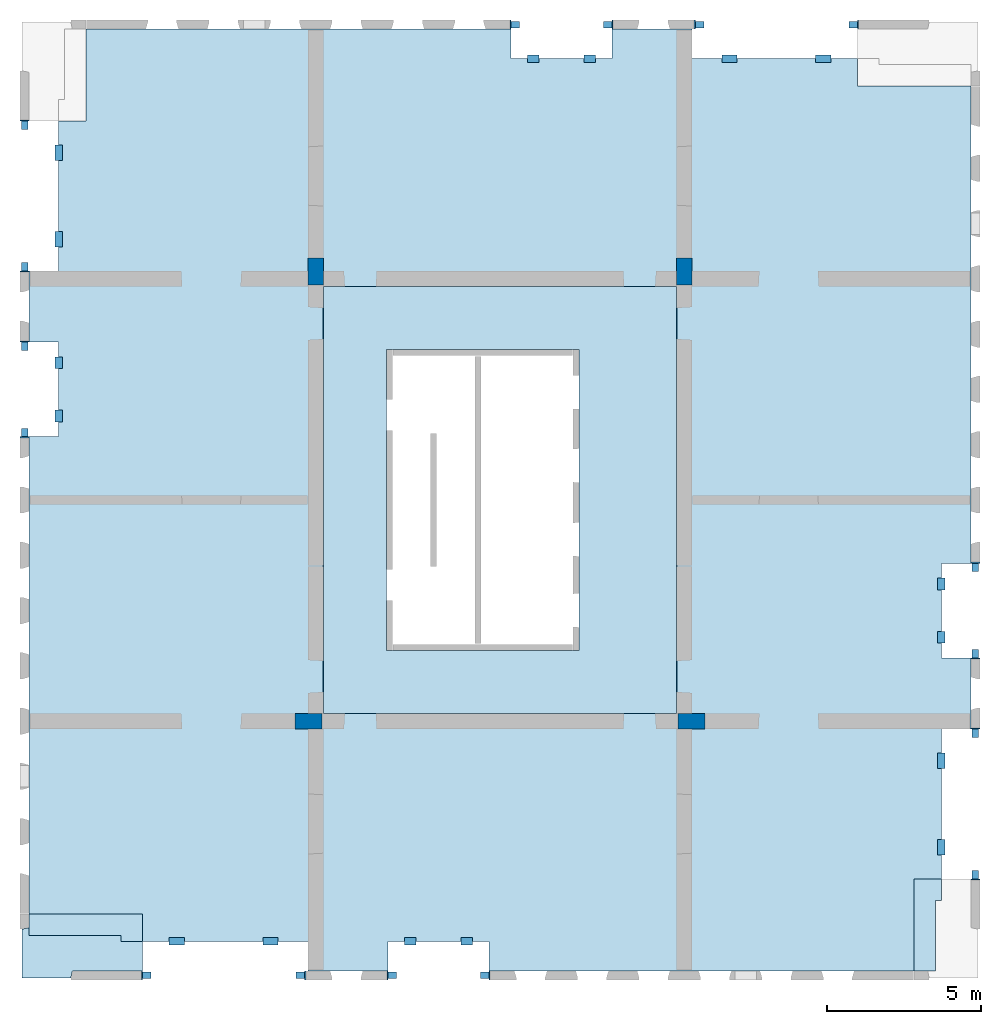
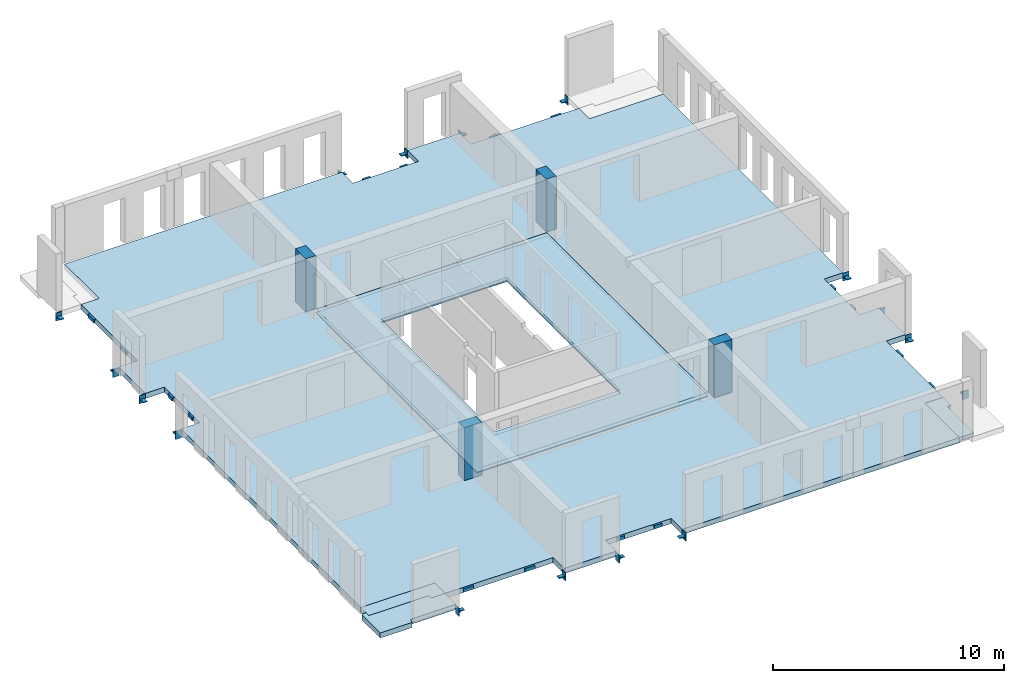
# One storey, part 1 of 4: 32 beams, 6 slabs, 4 columns, 3 openings.
"""IFC2X3 building model written with IfcOpenShell, lengths in millimetres."""

from ifc_helpers import new_model, entity, si_unit, converted_unit, derived_unit, direction, frame, frame_2d, origin, origin_2d_with_axis, place, context, subcontext, project, spatial, polyline, rectangle, outline, extrude, source, transform, mapped, material, layer, layer_set, layer_usage, type_object, type_shapes, element, save


model = new_model("IFC2X3")

# Units and contexts
model_context = context("Model", 3, precision=0.01, world=origin(), true_north=direction((6.12303176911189e-17, 1.0)))
body_context = subcontext(model_context, "Body", "Model", "MODEL_VIEW")
ifc_project = project(units=[si_unit("LENGTHUNIT", "METRE", prefix="MILLI"), si_unit("AREAUNIT", "SQUARE_METRE"), si_unit("VOLUMEUNIT", "CUBIC_METRE"), converted_unit("PLANEANGLEUNIT", "DEGREE", entity("IfcRatioMeasure", 0.0174532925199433), si_unit("PLANEANGLEUNIT", "RADIAN"), dimensions=[0, 0, 0, 0, 0, 0, 0]), si_unit("MASSUNIT", "GRAM", prefix="KILO"), derived_unit("MASSDENSITYUNIT", [(si_unit("MASSUNIT", "GRAM", prefix="KILO"), 1), (si_unit("LENGTHUNIT", "METRE"), -3)]), si_unit("TIMEUNIT", "SECOND"), si_unit("FREQUENCYUNIT", "HERTZ"), si_unit("THERMODYNAMICTEMPERATUREUNIT", "DEGREE_CELSIUS"), derived_unit("THERMALTRANSMITTANCEUNIT", [(si_unit("MASSUNIT", "GRAM", prefix="KILO"), 1), (si_unit("THERMODYNAMICTEMPERATUREUNIT", "KELVIN"), -1), (si_unit("TIMEUNIT", "SECOND"), -3)]), derived_unit("VOLUMETRICFLOWRATEUNIT", [(si_unit("LENGTHUNIT", "METRE"), 3), (si_unit("TIMEUNIT", "SECOND"), -1)]), si_unit("ELECTRICCURRENTUNIT", "AMPERE"), si_unit("ELECTRICVOLTAGEUNIT", "VOLT"), si_unit("POWERUNIT", "WATT"), si_unit("FORCEUNIT", "NEWTON", prefix="KILO"), si_unit("ILLUMINANCEUNIT", "LUX"), si_unit("LUMINOUSFLUXUNIT", "LUMEN"), si_unit("LUMINOUSINTENSITYUNIT", "CANDELA"), derived_unit("USERDEFINED", [(si_unit("MASSUNIT", "GRAM", prefix="KILO"), -1), (si_unit("LENGTHUNIT", "METRE"), -2), (si_unit("TIMEUNIT", "SECOND"), 3), (si_unit("LUMINOUSFLUXUNIT", "LUMEN"), 1)]), derived_unit("LINEARVELOCITYUNIT", [(si_unit("LENGTHUNIT", "METRE"), 1), (si_unit("TIMEUNIT", "SECOND"), -1)]), si_unit("PRESSUREUNIT", "PASCAL"), derived_unit("USERDEFINED", [(si_unit("LENGTHUNIT", "METRE"), -2), (si_unit("MASSUNIT", "GRAM", prefix="KILO"), 1), (si_unit("TIMEUNIT", "SECOND"), -2)])], contexts=[model_context])

# Site, building, storey
site_placement = place(None, origin())
site = spatial("IfcSite", under=ifc_project, at=site_placement, Name="Default", CompositionType="ELEMENT")
building_placement = place(site_placement, origin())
building = spatial("IfcBuilding", under=site, at=building_placement, Name="niet gebruiken", CompositionType="ELEMENT")
storey_placement = place(building_placement, frame((0.0, 0.0, 42480.0)))
storey = spatial("IfcBuildingStorey", under=building, at=storey_placement, Name="13 dertiende verdieping", CompositionType="ELEMENT", Elevation=42480.0)

# Columns
ifc_material_1 = material(Name="NLRS_f2_beton ihwg")
column_type_1 = type_object("IfcColumnType", Name="500x880", PredefinedType="COLUMN", material=ifc_material_1)
shared_shape_1 = source(origin(), body_context, "Body", "SweptSolid", [
    extrude(rectangle(XDim=879.999999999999, YDim=500.000000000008, at=origin_2d_with_axis()), frame((135750.003540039, 24940.0, 42390.0), z_axis=(0.0, 0.0, 1.0), x_axis=(0.0, -1.0, 0.0)), (0.0, 0.0, 1.0), 2790.0),
])
type_shapes(column_type_1, [shared_shape_1])
column_1_placement = place(storey_placement, frame((0.0, 0.0, -42480.0)))
element("IfcColumn", 1, at=column_1_placement, inside=storey, type_object=column_type_1, material=ifc_material_1, Name="NLRS_28.11_SCO_TLB_beton kolom ihwg_gen:500x880", ObjectType="500x880", context=body_context, shape_type="MappedRepresentation", body=[
    mapped(shared_shape_1, transform((0.0, 0.0, 0.0), scale=1.0)),
])
column_type_2 = type_object("IfcColumnType", Name="500x880", PredefinedType="COLUMN", material=ifc_material_1)
shared_shape_2 = source(origin(), body_context, "Body", "SweptSolid", [
    extrude(rectangle(XDim=879.999999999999, YDim=500.000000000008, at=origin_2d_with_axis()), frame((147750.0, 24940.0, 42390.0), z_axis=(0.0, 0.0, 1.0), x_axis=(0.0, -1.0, 0.0)), (0.0, 0.0, 1.0), 2790.0),
])
type_shapes(column_type_2, [shared_shape_2])
column_2_placement = place(storey_placement, frame((0.0, 0.0, -42480.0)))
element("IfcColumn", 2, at=column_2_placement, inside=storey, type_object=column_type_2, material=ifc_material_1, Name="NLRS_28.11_SCO_TLB_beton kolom ihwg_gen:500x880", ObjectType="500x880", context=body_context, shape_type="MappedRepresentation", body=[
    mapped(shared_shape_2, transform((0.0, 0.0, 0.0), scale=1.0)),
])
column_type_3 = type_object("IfcColumnType", Name="500x880", PredefinedType="COLUMN", material=ifc_material_1)
shared_shape_3 = source(origin(), body_context, "Body", "SweptSolid", [
    extrude(rectangle(XDim=500.000000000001, YDim=880.000000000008, at=origin_2d_with_axis()), frame((135510.003540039, 10300.0115507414, 42390.0), z_axis=(0.0, 0.0, 1.0), x_axis=(0.0, -1.0, 0.0)), (0.0, 0.0, 1.0), 2790.0),
])
type_shapes(column_type_3, [shared_shape_3])
column_3_placement = place(storey_placement, frame((0.0, 0.0, -42480.0)))
element("IfcColumn", 3, at=column_3_placement, inside=storey, type_object=column_type_3, material=ifc_material_1, Name="NLRS_28.11_SCO_TLB_beton kolom ihwg_gen:500x880", ObjectType="500x880", context=body_context, shape_type="MappedRepresentation", body=[
    mapped(shared_shape_3, transform((0.0, 0.0, 0.0), scale=1.0)),
])
column_type_4 = type_object("IfcColumnType", Name="500x880", PredefinedType="COLUMN", material=ifc_material_1)
shared_shape_4 = source(origin(), body_context, "Body", "SweptSolid", [
    extrude(rectangle(XDim=500.000000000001, YDim=880.000000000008, at=origin_2d_with_axis()), frame((147990.0, 10300.0, 42390.0), z_axis=(0.0, 0.0, 1.0), x_axis=(0.0, -1.0, 0.0)), (0.0, 0.0, 1.0), 2790.0),
])
type_shapes(column_type_4, [shared_shape_4])
column_4_placement = place(storey_placement, frame((0.0, 0.0, -42480.0)))
element("IfcColumn", 4, at=column_4_placement, inside=storey, type_object=column_type_4, material=ifc_material_1, Name="NLRS_28.11_SCO_TLB_beton kolom ihwg_gen:500x880", ObjectType="500x880", context=body_context, shape_type="MappedRepresentation", body=[
    mapped(shared_shape_4, transform((0.0, 0.0, 0.0), scale=1.0)),
])

# Beams
ifc_material_2 = material(Name="NLRS_h2_staal")
beam_type_1 = type_object("IfcBeamType", Name="NLRS_28.11_SF_WPB_stalen schoen 4_gen", PredefinedType="BEAM", material=ifc_material_2)
shared_shape_5 = source(origin(), body_context, "Body", "SweptSolid", [
    extrude(outline(polyline([(-69.4999999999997, -23.0), (8.49999999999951, -23.0), (30.5, -1.0), (30.5000000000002, 47.0), (-69.4999999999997, -23.0)])), frame((-105.0, -109.499999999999, -58.0), z_axis=(1.0, 0.0, 0.0), x_axis=(0.0, -1.0, 0.0)), (0.0, 0.0, 1.0), 35.0),
    extrude(outline(polyline([(-69.4999999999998, -23.0), (8.49999999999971, -23.0), (30.5, -1.0), (30.5000000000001, 47.0), (-69.4999999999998, -23.0)])), frame((70.0, -109.499999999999, -58.0), z_axis=(1.0, 0.0, 0.0), x_axis=(0.0, -1.0, 0.0)), (0.0, 0.0, 1.0), 35.0),
    extrude(rectangle(XDim=300.0, YDim=34.9999999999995, at=origin_2d_with_axis()), frame((0.0, -157.5, -230.0), z_axis=(0.0, 0.0, 1.0), x_axis=(-1.0, 0.0, 0.0)), (0.0, 0.0, 1.0), 420.0),
    extrude(rectangle(XDim=210.000000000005, YDim=274.999999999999, at=origin_2d_with_axis()), frame((0.0, -2.4999999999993, -35.0), z_axis=(0.0, 0.0, 1.0), x_axis=(-1.0, 0.0, 0.0)), (0.0, 0.0, 1.0), 35.0),
])
type_shapes(beam_type_1, [shared_shape_5])
beam_1_placement = place(storey_placement, frame((157230.0, 12500.0, -310.0)))
element("IfcBeam", 5, at=beam_1_placement, inside=storey, type_object=beam_type_1, material=ifc_material_2, Name="NLRS_28.11_SF_WPB_stalen schoen 4_gen:NLRS_28.11_SF_WPB_stalen schoen 4_gen", ObjectType="NLRS_28.11_SF_WPB_stalen schoen 4_gen", context=body_context, shape_type="MappedRepresentation", body=[
    mapped(shared_shape_5, transform((0.0, 0.0, 0.0), scale=1.0)),
])
for number, where, z_axis, x_axis, name in (
    (6, (126270.0, 22500.0, -310.0), (0.0, 0.0, 1.0), (-1.0, 0.0, 0.0), "NLRS_28.11_SF_WPB_stalen schoen 4_gen:NLRS_28.11_SF_WPB_stalen schoen 4_gen"),
    (7, (157230.0, 15300.0, -310.0), (0.0, 0.0, 1.0), (-1.0, 0.0, 0.0), "NLRS_28.11_SF_WPB_stalen schoen 4_gen:NLRS_28.11_SF_WPB_stalen schoen 4_gen"),
):
    element("IfcBeam", number, at=place(storey_placement, frame(where, z_axis=z_axis, x_axis=x_axis)), inside=storey, type_object=beam_type_1, material=ifc_material_2, Name=name, ObjectType="NLRS_28.11_SF_WPB_stalen schoen 4_gen", context=body_context, shape_type="MappedRepresentation", body=[
        mapped(shared_shape_5, transform((0.0, 0.0, 0.0), scale=1.0)),
    ])
beam_2_placement = place(storey_placement, frame((126270.0, 19700.0, -310.0)))
element("IfcBeam", 8, at=beam_2_placement, inside=storey, type_object=beam_type_1, material=ifc_material_2, Name="NLRS_28.11_SF_WPB_stalen schoen 4_gen:NLRS_28.11_SF_WPB_stalen schoen 4_gen", ObjectType="NLRS_28.11_SF_WPB_stalen schoen 4_gen", context=body_context, shape_type="MappedRepresentation", body=[
    mapped(shared_shape_5, transform((0.0, 0.0, 0.0), scale=1.0)),
])
for number, where, z_axis, x_axis, name in (
    (9, (138250.0, 2020.0, -310.0), (0.0, 0.0, 1.0), (0.0, -1.0, 0.0), "NLRS_28.11_SF_WPB_stalen schoen 4_gen:NLRS_28.11_SF_WPB_stalen schoen 4_gen"),
    (10, (141250.0, 2020.0, -310.0), (0.0, 0.0, 1.0), (0.0, 1.0, 0.0), "NLRS_28.11_SF_WPB_stalen schoen 4_gen:NLRS_28.11_SF_WPB_stalen schoen 4_gen"),
    (11, (145250.0, 32980.0, -310.0), (0.0, 0.0, 1.0), (0.0, 1.0, 0.0), "NLRS_28.11_SF_WPB_stalen schoen 4_gen:NLRS_28.11_SF_WPB_stalen schoen 4_gen"),
    (12, (142250.0, 32980.0, -310.0), (0.0, 0.0, 1.0), (0.0, -1.0, 0.0), "NLRS_28.11_SF_WPB_stalen schoen 4_gen:NLRS_28.11_SF_WPB_stalen schoen 4_gen"),
):
    element("IfcBeam", number, at=place(storey_placement, frame(where, z_axis=z_axis, x_axis=x_axis)), inside=storey, type_object=beam_type_1, material=ifc_material_2, Name=name, ObjectType="NLRS_28.11_SF_WPB_stalen schoen 4_gen", context=body_context, shape_type="MappedRepresentation", body=[
        mapped(shared_shape_5, transform((0.0, 0.0, 0.0), scale=1.0)),
    ])
beam_type_2 = type_object("IfcBeamType", Name="NLRS_28.11_SF_WPB_stalen schoen 3_gen", PredefinedType="BEAM", material=ifc_material_2)
shared_shape_6 = source(origin(), body_context, "Body", "SweptSolid", [
    extrude(outline(polyline([(-69.4999999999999, -23.0), (8.49999999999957, -23.0), (30.5000000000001, -1.0), (30.5000000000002, 47.0), (-69.4999999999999, -23.0)])), frame((-105.0, -109.499999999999, -63.0), z_axis=(1.0, 0.0, 0.0), x_axis=(0.0, -1.0, 0.0)), (0.0, 0.0, 1.0), 40.0),
    extrude(outline(polyline([(-69.4999999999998, -23.0), (8.49999999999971, -23.0), (30.5, -1.0), (30.5000000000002, 47.0), (-69.4999999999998, -23.0)])), frame((65.0, -109.499999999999, -63.0), z_axis=(1.0, 0.0, 0.0), x_axis=(0.0, -1.0, 0.0)), (0.0, 0.0, 1.0), 40.0),
    extrude(rectangle(XDim=300.0, YDim=39.9999999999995, at=origin_2d_with_axis()), frame((0.0, -160.0, -230.0), z_axis=(0.0, 0.0, 1.0), x_axis=(-1.0, 0.0, 0.0)), (0.0, 0.0, 1.0), 420.0),
    extrude(rectangle(XDim=210.000000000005, YDim=274.999999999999, at=origin_2d_with_axis()), frame((0.0, -2.49999999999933, -40.0), z_axis=(0.0, 0.0, 1.0), x_axis=(-1.0, 0.0, 0.0)), (0.0, 0.0, 1.0), 39.9999999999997),
])
type_shapes(beam_type_2, [shared_shape_6])
beam_3_placement = place(storey_placement, frame((157230.0, 9900.0, -310.0), z_axis=(0.0, 0.0, 1.0), x_axis=(-1.0, 0.0, 0.0)))
element("IfcBeam", 13, at=beam_3_placement, inside=storey, type_object=beam_type_2, material=ifc_material_2, Name="NLRS_28.11_SF_WPB_stalen schoen 3_gen:NLRS_28.11_SF_WPB_stalen schoen 3_gen", ObjectType="NLRS_28.11_SF_WPB_stalen schoen 3_gen", context=body_context, shape_type="MappedRepresentation", body=[
    mapped(shared_shape_6, transform((0.0, 0.0, 0.0), scale=1.0)),
])
for number, where, name in (
    (14, (157230.0, 5300.0, -310.0), "NLRS_28.11_SF_WPB_stalen schoen 3_gen:NLRS_28.11_SF_WPB_stalen schoen 3_gen"),
    (15, (126270.0, 25100.0, -310.0), "NLRS_28.11_SF_WPB_stalen schoen 3_gen:NLRS_28.11_SF_WPB_stalen schoen 3_gen"),
):
    element("IfcBeam", number, at=place(storey_placement, frame(where)), inside=storey, type_object=beam_type_2, material=ifc_material_2, Name=name, ObjectType="NLRS_28.11_SF_WPB_stalen schoen 3_gen", context=body_context, shape_type="MappedRepresentation", body=[
        mapped(shared_shape_6, transform((0.0, 0.0, 0.0), scale=1.0)),
    ])
for number, where, z_axis, x_axis, name in (
    (16, (126270.0, 29700.0, -310.0), (0.0, 0.0, 1.0), (-1.0, 0.0, 0.0), "NLRS_28.11_SF_WPB_stalen schoen 3_gen:NLRS_28.11_SF_WPB_stalen schoen 3_gen"),
    (17, (135250.0, 2020.0, -310.0), (0.0, 0.0, 1.0), (0.0, 1.0, 0.0), "NLRS_28.11_SF_WPB_stalen schoen 3_gen:NLRS_28.11_SF_WPB_stalen schoen 3_gen"),
    (18, (130250.0, 2020.0, -310.0), (0.0, 0.0, 1.0), (0.0, -1.0, 0.0), "NLRS_28.11_SF_WPB_stalen schoen 3_gen:NLRS_28.11_SF_WPB_stalen schoen 3_gen"),
    (19, (148250.0, 32980.0, -310.0), (0.0, 0.0, 1.0), (0.0, -1.0, 0.0), "NLRS_28.11_SF_WPB_stalen schoen 3_gen:NLRS_28.11_SF_WPB_stalen schoen 3_gen"),
    (20, (153250.0, 32980.0, -310.0), (0.0, 0.0, 1.0), (0.0, 1.0, 0.0), "NLRS_28.11_SF_WPB_stalen schoen 3_gen:NLRS_28.11_SF_WPB_stalen schoen 3_gen"),
):
    element("IfcBeam", number, at=place(storey_placement, frame(where, z_axis=z_axis, x_axis=x_axis)), inside=storey, type_object=beam_type_2, material=ifc_material_2, Name=name, ObjectType="NLRS_28.11_SF_WPB_stalen schoen 3_gen", context=body_context, shape_type="MappedRepresentation", body=[
        mapped(shared_shape_6, transform((0.0, 0.0, 0.0), scale=1.0)),
    ])
beam_type_3 = type_object("IfcBeamType", Name="NLRS_28.11_SF_WPB_stalen handje 7 lang 375_gen:NLRS_28.11_SF_WPB_stalen handje 7_gen", PredefinedType="BEAM")
beam_4_placement = place(storey_placement, frame((156235.125015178, 9255.24886461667, -93.0), z_axis=(0.0, 0.0, 1.0), x_axis=(0.0, -1.0, 0.0)))
element("IfcBeam", 21, at=beam_4_placement, inside=storey, type_object=beam_type_3, material=ifc_material_2, Name="NLRS_28.11_SF_WPB_stalen handje 7 lang 375_gen:NLRS_28.11_SF_WPB_stalen handje 7_gen", ObjectType="NLRS_28.11_SF_WPB_stalen handje 7 lang 375_gen:NLRS_28.11_SF_WPB_stalen handje 7_gen", context=body_context, shape_type="SweptSolid", body=[
    extrude(outline(polyline([(-70.6666666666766, -153.33333333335), (-40.6666666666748, -153.33333333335), (-40.6666666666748, 61.6666666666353), (111.333333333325, 61.6666666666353), (111.333333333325, 91.6666666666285), (-70.6666666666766, 91.6666666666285), (-70.6666666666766, -153.33333333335)])), frame((0.0, -91.6666666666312, -70.6666666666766), z_axis=(1.0, 0.0, 0.0), x_axis=(0.0, 0.0, -1.0)), (0.0, 0.0, 1.0), 500.000000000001),
])
beam_5_placement = place(storey_placement, frame((156235.125015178, 6445.24582437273, -93.0), z_axis=(0.0, 0.0, 1.0), x_axis=(0.0, -1.0, 0.0)))
element("IfcBeam", 22, at=beam_5_placement, inside=storey, type_object=beam_type_3, material=ifc_material_2, Name="NLRS_28.11_SF_WPB_stalen handje 7 lang 375_gen:NLRS_28.11_SF_WPB_stalen handje 7_gen", ObjectType="NLRS_28.11_SF_WPB_stalen handje 7 lang 375_gen:NLRS_28.11_SF_WPB_stalen handje 7_gen", context=body_context, shape_type="SweptSolid", body=[
    extrude(outline(polyline([(-70.6666666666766, -153.33333333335), (-40.6666666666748, -153.33333333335), (-40.6666666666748, 61.6666666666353), (111.333333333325, 61.6666666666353), (111.333333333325, 91.6666666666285), (-70.6666666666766, 91.6666666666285), (-70.6666666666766, -153.33333333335)])), frame((0.0, -91.6666666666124, -70.6666666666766), z_axis=(1.0, 0.0, 0.0), x_axis=(0.0, 0.0, -1.0)), (0.0, 0.0, 1.0), 500.000000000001),
])
beam_6_placement = place(storey_placement, frame((127264.874984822, 25744.7511353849, -93.0), z_axis=(0.0, 0.0, 1.0), x_axis=(0.0, 1.0, 0.0)))
element("IfcBeam", 23, at=beam_6_placement, inside=storey, type_object=beam_type_3, material=ifc_material_2, Name="NLRS_28.11_SF_WPB_stalen handje 7 lang 375_gen:NLRS_28.11_SF_WPB_stalen handje 7_gen", ObjectType="NLRS_28.11_SF_WPB_stalen handje 7 lang 375_gen:NLRS_28.11_SF_WPB_stalen handje 7_gen", context=body_context, shape_type="SweptSolid", body=[
    extrude(outline(polyline([(-70.6666666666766, -153.333333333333), (-40.6666666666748, -153.333333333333), (-40.6666666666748, 61.6666666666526), (111.333333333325, 61.6666666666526), (111.333333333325, 91.6666666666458), (-70.6666666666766, 91.6666666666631), (-70.6666666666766, -153.333333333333)])), frame((0.0, -91.6666666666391, -70.6666666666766), z_axis=(1.0, 0.0, 0.0), x_axis=(0.0, 0.0, -1.0)), (0.0, 0.0, 1.0), 500.0),
])
beam_7_placement = place(storey_placement, frame((127264.874984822, 28554.7541756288, -93.0), z_axis=(0.0, 0.0, 1.0), x_axis=(0.0, 1.0, 0.0)))
element("IfcBeam", 24, at=beam_7_placement, inside=storey, type_object=beam_type_3, material=ifc_material_2, Name="NLRS_28.11_SF_WPB_stalen handje 7 lang 375_gen:NLRS_28.11_SF_WPB_stalen handje 7_gen", ObjectType="NLRS_28.11_SF_WPB_stalen handje 7 lang 375_gen:NLRS_28.11_SF_WPB_stalen handje 7_gen", context=body_context, shape_type="SweptSolid", body=[
    extrude(outline(polyline([(-70.6666666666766, -153.33333333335), (-40.6666666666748, -153.33333333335), (-40.6666666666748, 61.6666666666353), (111.333333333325, 61.6666666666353), (111.333333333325, 91.6666666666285), (-70.6666666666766, 91.6666666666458), (-70.6666666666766, -153.33333333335)])), frame((0.0, -91.6666666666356, -70.6666666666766), z_axis=(1.0, 0.0, 0.0), x_axis=(0.0, 0.0, -1.0)), (0.0, 0.0, 1.0), 500.0),
])
for number, where, z_axis, x_axis, name in (
    (25, (140862.631597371, 3015.2361127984, -93.0), (0.0, 0.0, 1.0), (-1.0, 0.0, 0.0), "NLRS_28.11_SF_WPB_stalen handje 7 lang 375_gen:NLRS_28.11_SF_WPB_stalen handje 7_gen"),
    (26, (139012.628555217, 3015.23611279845, -93.0), (0.0, 0.0, 1.0), (-1.0, 0.0, 0.0), "NLRS_28.11_SF_WPB_stalen handje 7 lang 375_gen:NLRS_28.11_SF_WPB_stalen handje 7_gen"),
):
    element("IfcBeam", number, at=place(storey_placement, frame(where, z_axis=z_axis, x_axis=x_axis)), inside=storey, type_object=beam_type_3, material=ifc_material_2, Name=name, ObjectType="NLRS_28.11_SF_WPB_stalen handje 7 lang 375_gen:NLRS_28.11_SF_WPB_stalen handje 7_gen", context=body_context, shape_type="SweptSolid", body=[
        extrude(outline(polyline([(-70.6666666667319, -153.333333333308), (-40.6666666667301, -153.333333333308), (-40.6666666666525, 61.6666666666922), (111.333333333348, 61.6666666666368), (111.333333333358, 91.6666666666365), (-70.6666666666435, 91.6666666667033), (-70.6666666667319, -153.333333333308)])), frame((0.0, -91.6666666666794, -70.6666666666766), z_axis=(1.0, 0.0, 0.0), x_axis=(0.0, 0.0, -1.0)), (0.0, 0.0, 1.0), 375.000000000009),
    ])
for number, where, z_axis, x_axis, name in (
    (27, (134525.131597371, 3015.23611279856, -93.0), (0.0, 0.0, 1.0), (-1.0, 0.0, 0.0), "NLRS_28.11_SF_WPB_stalen handje 7 lang 375_gen:NLRS_28.11_SF_WPB_stalen handje 7_gen"),
    (28, (131475.128555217, 3015.23611279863, -93.0), (0.0, 0.0, 1.0), (-1.0, 0.0, 0.0), "NLRS_28.11_SF_WPB_stalen handje 7 lang 375_gen:NLRS_28.11_SF_WPB_stalen handje 7_gen"),
):
    element("IfcBeam", number, at=place(storey_placement, frame(where, z_axis=z_axis, x_axis=x_axis)), inside=storey, type_object=beam_type_3, material=ifc_material_2, Name=name, ObjectType="NLRS_28.11_SF_WPB_stalen handje 7 lang 375_gen:NLRS_28.11_SF_WPB_stalen handje 7_gen", context=body_context, shape_type="SweptSolid", body=[
        extrude(outline(polyline([(-70.6666666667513, -153.333333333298), (-40.6666666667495, -153.333333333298), (-40.6666666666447, 61.6666666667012), (111.333333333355, 61.6666666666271), (111.33333333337, 91.6666666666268), (-70.6666666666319, 91.666666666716), (-70.6666666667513, -153.333333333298)])), frame((0.0, -91.6666666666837, -70.6666666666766), z_axis=(1.0, 0.0, 0.0), x_axis=(0.0, 0.0, -1.0)), (0.0, 0.0, 1.0), 500.000000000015),
    ])
for number, where, name in (
    (29, (142637.368402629, 31984.7638872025, -93.0), "NLRS_28.11_SF_WPB_stalen handje 7 lang 375_gen:NLRS_28.11_SF_WPB_stalen handje 7_gen"),
    (30, (144487.371444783, 31984.7638872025, -93.0), "NLRS_28.11_SF_WPB_stalen handje 7 lang 375_gen:NLRS_28.11_SF_WPB_stalen handje 7_gen"),
):
    element("IfcBeam", number, at=place(storey_placement, frame(where)), inside=storey, type_object=beam_type_3, material=ifc_material_2, Name=name, ObjectType="NLRS_28.11_SF_WPB_stalen handje 7 lang 375_gen:NLRS_28.11_SF_WPB_stalen handje 7_gen", context=body_context, shape_type="SweptSolid", body=[
        extrude(outline(polyline([(-70.6666666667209, -153.333333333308), (-40.666666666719, -153.333333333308), (-40.6666666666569, 61.6666666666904), (111.333333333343, 61.6666666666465), (111.333333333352, 91.6666666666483), (-70.6666666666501, 91.6666666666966), (-70.6666666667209, -153.333333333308)])), frame((0.0, -91.6666666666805, -70.6666666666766), z_axis=(1.0, 0.0, 0.0), x_axis=(0.0, 0.0, -1.0)), (0.0, 0.0, 1.0), 375.000000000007),
    ])
beam_8_placement = place(storey_placement, frame((148974.868402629, 31984.7638872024, -93.0)))
element("IfcBeam", 31, at=beam_8_placement, inside=storey, type_object=beam_type_3, material=ifc_material_2, Name="NLRS_28.11_SF_WPB_stalen handje 7 lang 375_gen:NLRS_28.11_SF_WPB_stalen handje 7_gen", ObjectType="NLRS_28.11_SF_WPB_stalen handje 7 lang 375_gen:NLRS_28.11_SF_WPB_stalen handje 7_gen", context=body_context, shape_type="SweptSolid", body=[
    extrude(outline(polyline([(-70.666666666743, -153.333333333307), (-40.6666666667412, -153.333333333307), (-40.666666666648, 61.6666666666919), (111.333333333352, 61.6666666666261), (111.333333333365, 91.6666666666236), (-70.6666666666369, 91.6666666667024), (-70.666666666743, -153.333333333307)])), frame((0.0, -91.6666666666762, -70.6666666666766), z_axis=(1.0, 0.0, 0.0), x_axis=(0.0, 0.0, -1.0)), (0.0, 0.0, 1.0), 500.000000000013),
])
beam_9_placement = place(storey_placement, frame((152024.871444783, 31984.7638872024, -93.0)))
element("IfcBeam", 32, at=beam_9_placement, inside=storey, type_object=beam_type_3, material=ifc_material_2, Name="NLRS_28.11_SF_WPB_stalen handje 7 lang 375_gen:NLRS_28.11_SF_WPB_stalen handje 7_gen", ObjectType="NLRS_28.11_SF_WPB_stalen handje 7 lang 375_gen:NLRS_28.11_SF_WPB_stalen handje 7_gen", context=body_context, shape_type="SweptSolid", body=[
    extrude(outline(polyline([(-70.666666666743, -153.333333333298), (-40.6666666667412, -153.333333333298), (-40.666666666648, 61.6666666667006), (111.333333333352, 61.6666666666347), (111.333333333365, 91.6666666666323), (-70.6666666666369, 91.6666666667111), (-70.666666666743, -153.333333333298)])), frame((0.0, -91.6666666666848, -70.6666666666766), z_axis=(1.0, 0.0, 0.0), x_axis=(0.0, 0.0, -1.0)), (0.0, 0.0, 1.0), 500.000000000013),
])
beam_10_placement = place(storey_placement, frame((156235.0, 14952.5097115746, -93.0), z_axis=(0.0, 0.0, 1.0), x_axis=(0.0, -1.0, 0.0)))
element("IfcBeam", 33, at=beam_10_placement, inside=storey, type_object=beam_type_3, material=ifc_material_2, Name="NLRS_28.11_SF_WPB_stalen handje 7 lang 375_gen:NLRS_28.11_SF_WPB_stalen handje 7_gen", ObjectType="NLRS_28.11_SF_WPB_stalen handje 7 lang 375_gen:NLRS_28.11_SF_WPB_stalen handje 7_gen", context=body_context, shape_type="SweptSolid", body=[
    extrude(outline(polyline([(-70.6666666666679, -153.333333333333), (-40.6666666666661, -153.333333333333), (-40.6666666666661, 61.66666666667), (111.333333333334, 61.66666666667), (111.333333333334, 91.6666666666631), (-70.6666666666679, 91.6666666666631), (-70.6666666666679, -153.333333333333)])), frame((0.0, -91.6666666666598, -70.6666666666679), z_axis=(1.0, 0.0, 0.0), x_axis=(0.0, 0.0, -1.0)), (0.0, 0.0, 1.0), 375.000000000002),
])
beam_11_placement = place(storey_placement, frame((156235.0, 13222.5097115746, -93.0), z_axis=(0.0, 0.0, 1.0), x_axis=(0.0, -1.0, 0.0)))
element("IfcBeam", 34, at=beam_11_placement, inside=storey, type_object=beam_type_3, material=ifc_material_2, Name="NLRS_28.11_SF_WPB_stalen handje 7 lang 375_gen:NLRS_28.11_SF_WPB_stalen handje 7_gen", ObjectType="NLRS_28.11_SF_WPB_stalen handje 7 lang 375_gen:NLRS_28.11_SF_WPB_stalen handje 7_gen", context=body_context, shape_type="SweptSolid", body=[
    extrude(outline(polyline([(-70.6666666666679, -153.333333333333), (-40.6666666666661, -153.333333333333), (-40.6666666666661, 61.66666666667), (111.333333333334, 61.66666666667), (111.333333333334, 91.6666666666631), (-70.6666666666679, 91.6666666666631), (-70.6666666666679, -153.333333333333)])), frame((0.0, -91.6666666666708, -70.6666666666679), z_axis=(1.0, 0.0, 0.0), x_axis=(0.0, 0.0, -1.0)), (0.0, 0.0, 1.0), 375.000000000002),
])
beam_12_placement = place(storey_placement, frame((127265.0, 20047.4902884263, -93.0), z_axis=(0.0, 0.0, 1.0), x_axis=(0.0, 1.0, 0.0)))
element("IfcBeam", 35, at=beam_12_placement, inside=storey, type_object=beam_type_3, material=ifc_material_2, Name="NLRS_28.11_SF_WPB_stalen handje 7 lang 375_gen:NLRS_28.11_SF_WPB_stalen handje 7_gen", ObjectType="NLRS_28.11_SF_WPB_stalen handje 7 lang 375_gen:NLRS_28.11_SF_WPB_stalen handje 7_gen", context=body_context, shape_type="SweptSolid", body=[
    extrude(outline(polyline([(-70.6666666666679, -153.33333333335), (-40.6666666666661, -153.33333333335), (-40.6666666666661, 61.6666666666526), (111.333333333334, 61.6666666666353), (111.333333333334, 91.6666666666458), (-70.6666666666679, 91.6666666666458), (-70.6666666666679, -153.33333333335)])), frame((0.0, -91.6666666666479, -70.6666666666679), z_axis=(1.0, 0.0, 0.0), x_axis=(0.0, 0.0, -1.0)), (0.0, 0.0, 1.0), 375.000000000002),
])
beam_13_placement = place(storey_placement, frame((127265.0, 21777.4902884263, -93.0), z_axis=(0.0, 0.0, 1.0), x_axis=(0.0, 1.0, 0.0)))
element("IfcBeam", 36, at=beam_13_placement, inside=storey, type_object=beam_type_3, material=ifc_material_2, Name="NLRS_28.11_SF_WPB_stalen handje 7 lang 375_gen:NLRS_28.11_SF_WPB_stalen handje 7_gen", ObjectType="NLRS_28.11_SF_WPB_stalen handje 7 lang 375_gen:NLRS_28.11_SF_WPB_stalen handje 7_gen", context=body_context, shape_type="SweptSolid", body=[
    extrude(outline(polyline([(-70.6666666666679, -153.333333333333), (-40.6666666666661, -153.333333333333), (-40.6666666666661, 61.66666666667), (111.333333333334, 61.6666666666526), (111.333333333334, 91.6666666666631), (-70.6666666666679, 91.6666666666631), (-70.6666666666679, -153.333333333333)])), frame((0.0, -91.6666666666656, -70.6666666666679), z_axis=(1.0, 0.0, 0.0), x_axis=(0.0, 0.0, -1.0)), (0.0, 0.0, 1.0), 375.000000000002),
])

# Slabs
ifc_layer_1 = layer(ifc_material_1, 170.0)
ifc_layer_set_1 = layer_set([ifc_layer_1], Name="Floor:NLRS_23.21_FL_beton ihwg d=170_gen")
ifc_layer_usage_1 = layer_usage(ifc_layer_set_1, "AXIS3", "POSITIVE", 0.0)
slab_1_placement = place(storey_placement, origin())
element("IfcSlab", 37, at=slab_1_placement, inside=storey, material=ifc_layer_usage_1, Name="Floor:NLRS_23.21_FL_beton ihwg d=170_gen", ObjectType="Floor:NLRS_23.21_FL_beton ihwg d=170_gen", PredefinedType="FLOOR", context=body_context, shape_type="SweptSolid", body=[
    extrude(outline(polyline([(-1760.0, -533.33333333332), (1230.0, -533.33333333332), (1230.0, 366.666666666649), (530.0, 366.666666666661), (530.0, 166.666666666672), (-1760.0, 166.666666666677), (-1760.0, -533.33333333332)])), frame((155763.333333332, 3930.0, -90.0), z_axis=(0.0, 0.0, -1.0), x_axis=(0.0, 1.0, 0.0)), (0.0, 0.0, 1.0), 169.999999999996),
])
ifc_material_3 = material(Name="NLRS_f2_beton prefab")
ifc_layer_2 = layer(ifc_material_3, 270.0)
ifc_layer_set_2 = layer_set([ifc_layer_2], Name="Floor:NLRS_23.22_FL_beton prefab d=270 3D element_gen")
ifc_layer_usage_2 = layer_usage(ifc_layer_set_2, "AXIS3", "POSITIVE", 0.0)
slab_2_placement = place(storey_placement, origin())
element("IfcSlab", 38, at=slab_2_placement, inside=storey, material=ifc_layer_usage_2, Name="Floor:NLRS_23.22_FL_beton prefab d=270 3D element_gen", ObjectType="Floor:NLRS_23.22_FL_beton prefab d=270 3D element_gen", PredefinedType="LANDING", context=body_context, shape_type="SweptSolid", body=[
    extrude(outline(polyline([(-982.471394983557, -1442.47139498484), (607.67594043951, -1442.47139498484), (655.152429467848, -1209.47139498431), (1100.52860501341, -1209.47139498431), (1100.52860501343, 2480.5286050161), (-749.471394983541, 2480.5286050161), (-749.471394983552, 195.15242946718), (-982.47139498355, 147.675940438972), (-982.471394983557, -1442.47139498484)])), frame((127629.471394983, 2919.47139499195, -90.0), z_axis=(0.0, 0.0, -1.0), x_axis=(0.0, 1.0, 0.0)), (0.0, 0.0, 1.0), 269.999999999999),
])
ifc_layer_usage_3 = layer_usage(ifc_layer_set_1, "AXIS3", "POSITIVE", 0.0)
slab_3_placement = place(storey_placement, origin())
element("IfcSlab", 39, at=slab_3_placement, inside=storey, material=ifc_layer_usage_3, Name="Floor:NLRS_23.21_FL_beton ihwg d=170_gen", ObjectType="Floor:NLRS_23.21_FL_beton ihwg d=170_gen", PredefinedType="FLOOR", context=body_context, shape_type="SweptSolid", body=[
    extrude(outline(polyline([(-166.666666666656, -2226.66666666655), (533.333333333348, -2226.66666666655), (533.333333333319, 1463.33333333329), (-366.666666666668, 1463.33333333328), (-366.666666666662, 763.333333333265), (-166.666666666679, 763.333333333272), (-166.666666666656, -2226.66666666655)])), frame((128646.666666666, 3486.66666667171, -90.0), z_axis=(0.0, 0.0, -1.0), x_axis=(0.0, 1.0, 0.0)), (0.0, 0.0, 1.0), 169.999999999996),
])

# Slab, opening
ifc_layer_3 = layer(ifc_material_1, 230.0)
ifc_layer_set_3 = layer_set([ifc_layer_3], Name="Floor:NLRS_23.21_FL_vloer=230_gen")
ifc_layer_usage_4 = layer_usage(ifc_layer_set_3, "AXIS3", "POSITIVE", 0.0)
slab_4_placement = place(storey_placement, frame((136000.0, 10549.7638872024, -320.0)))
slab_4 = element("IfcSlab", 40, at=slab_4_placement, inside=storey, material=ifc_layer_usage_4, Name="Floor:NLRS_23.21_FL_vloer=230_gen", ObjectType="Floor:NLRS_23.21_FL_vloer=230_gen", PredefinedType="FLOOR", context=body_context, shape_type="SweptSolid", body=[
    extrude(rectangle(XDim=13900.2361127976, YDim=11500.0, at=frame_2d((0.0, 0.0), x_axis=(0.0, -1.0))), frame((5750.0, 6950.11805639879, 230.0), z_axis=(0.0, 0.0, -1.0), x_axis=(-1.0, 0.0, 0.0)), (0.0, 0.0, 1.0), 230.0),
])
opening_1_placement = place(slab_4_placement, frame((5190.0, 6950.23611279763, 230.0)))
element("IfcOpeningElement", 41, at=opening_1_placement, cuts=slab_4, Name="Floor:NLRS_23.21_FL_vloer=230_gen:2", ObjectType="Opening", context=body_context, shape_type="SweptSolid", body=[
    extrude(rectangle(XDim=9800.0, YDim=6279.99999999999, at=origin_2d_with_axis()), frame((0.0, 0.0, 0.0), z_axis=(0.0, 0.0, -1.0), x_axis=(0.0, -1.0, 0.0)), (0.0, 0.0, 1.0), 230.0),
])

ifc_layer_4 = layer(ifc_material_1, 170.0)
ifc_layer_5 = layer(ifc_material_3, 100.0)
ifc_layer_set_4 = layer_set([ifc_layer_4, ifc_layer_5], Name="Floor:NLRS_23.21_FL_breedplaat d=100/270_gen")
ifc_layer_usage_5 = layer_usage(ifc_layer_set_4, "AXIS3", "POSITIVE", 0.0)
slab_5_placement = place(storey_placement, frame((126419.874984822, 2169.76388720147, -360.0)))
slab_5 = element("IfcSlab", 42, at=slab_5_placement, inside=storey, material=ifc_layer_usage_5, Name="Floor:NLRS_23.21_FL_breedplaat d=100/270_gen", ObjectType="Floor:NLRS_23.21_FL_breedplaat d=100/270_gen", PredefinedType="FLOOR", context=body_context, shape_type="SweptSolid", body=[
    extrude(outline(polyline([(-360.0, 15330.0), (-360.0, 14380.0), (-3640.0, 14380.0), (-3640.0, 15330.0), (-6250.0, 15330.0), (-6250.0, 14380.0), (-11640.0, 14380.0), (-11640.0, 13480.0), (-15330.0, 13480.0), (-15330.0, -2060.0), (-14380.0, -2060.0), (-14380.0, -5140.0), (-15330.0, -5140.0), (-15330.0, -7450.0), (-14380.0, -7450.0), (-14380.0, -12340.0), (-13480.0, -12340.0), (-13480.0, -15330.0), (360.0, -15330.0), (360.0, -14380.0), (3640.0, -14380.0), (3640.0, -15330.0), (6250.0, -15330.0), (6250.0, -14380.0), (11640.0, -14380.0), (11640.0, -13480.0), (15330.0, -13480.0), (15330.0, 2060.0), (14380.0, 2060.0), (14380.0, 5140.0), (15330.0, 5140.0), (15330.0, 7450.0), (14380.0, 7450.0), (14380.0, 12340.0), (13480.0, 12340.0), (13480.0, 15330.0), (-360.0, 15330.0)])), frame((15330.0, 15330.0, 270.0), z_axis=(0.0, 0.0, -1.0), x_axis=(-1.0, 0.0, 0.0)), (0.0, 0.0, 1.0), 269.999999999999),
])
opening_2_placement = place(slab_5_placement, frame((15330.0, 15330.0, 270.0)))
element("IfcOpeningElement", 43, at=opening_2_placement, cuts=slab_5, Name="Floor:NLRS_23.21_FL_breedplaat d=100/270_gen:2", ObjectType="Opening", context=body_context, shape_type="SweptSolid", body=[
    extrude(rectangle(XDim=13900.0, YDim=11500.0, at=origin_2d_with_axis()), frame((0.0, 0.0, 0.0), z_axis=(0.0, 0.0, -1.0), x_axis=(0.0, -1.0, 0.0)), (0.0, 0.0, 1.0), 269.999999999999),
])

ifc_layer_6 = layer(ifc_material_3, 60.0)
ifc_layer_set_5 = layer_set([ifc_layer_6], Name="Floor:NLRS_23.21_FL_breedplaat d=60_gen")
ifc_layer_usage_6 = layer_usage(ifc_layer_set_5, "AXIS3", "POSITIVE", 0.0)
slab_6_placement = place(storey_placement, frame((135990.0, 10540.0, -320.0)))
slab_6 = element("IfcSlab", 44, at=slab_6_placement, inside=storey, material=ifc_layer_usage_6, Name="Floor:NLRS_23.21_FL_breedplaat d=60_gen", ObjectType="Floor:NLRS_23.21_FL_breedplaat d=60_gen", PredefinedType="FLOOR", context=body_context, shape_type="SweptSolid", body=[
    extrude(rectangle(XDim=13919.9999999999, YDim=11520.0, at=frame_2d((0.0, 0.0), x_axis=(0.0, -1.0))), frame((5760.0, 6960.0, 60.0), z_axis=(0.0, 0.0, -1.0), x_axis=(-1.0, 0.0, 0.0)), (0.0, 0.0, 1.0), 60.0000000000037),
])
opening_3_placement = place(slab_6_placement, frame((5200.0, 6960.0, 60.0)))
element("IfcOpeningElement", 45, at=opening_3_placement, cuts=slab_6, Name="Floor:NLRS_23.21_FL_breedplaat d=60_gen:2", ObjectType="Opening", context=body_context, shape_type="SweptSolid", body=[
    extrude(rectangle(XDim=9820.0, YDim=6299.99999999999, at=origin_2d_with_axis()), frame((0.0, 0.0, 0.0), z_axis=(0.0, 0.0, -1.0), x_axis=(0.0, -1.0, 0.0)), (0.0, 0.0, 1.0), 60.0000000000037),
])

save(model, "model.ifc")
